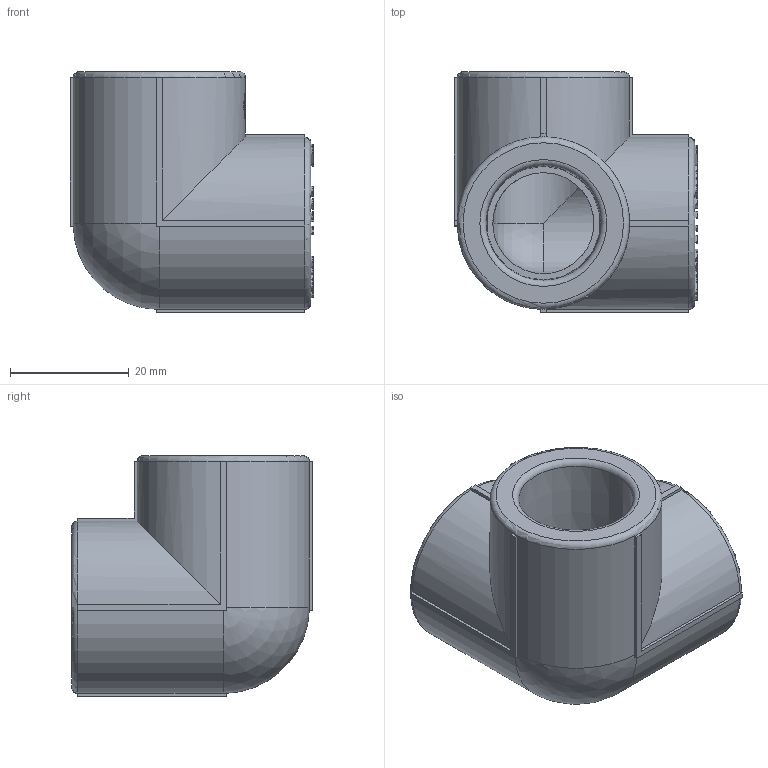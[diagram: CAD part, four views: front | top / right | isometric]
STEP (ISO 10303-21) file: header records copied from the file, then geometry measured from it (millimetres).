
FILE_DESCRIPTION(('STEP AP203'), '1');
FILE_NAME('ÂÐ.752248.001 - VTp.738.0.020', '', ('UNSPECIFIED'), ('UNSPECIFIED'), 'C3D Converter', 'C3D Toolkit', '');
FILE_SCHEMA(('CONFIG_CONTROL_DESIGN'));
Length unit declared in the file: millimetre
Products named in the file (1): ВР.752248.001
Bounding box: 41 x 40.5 x 40.5 mm (x, y, z)
Volume: 23252.8 mm3; surface area: 10323.4 mm2
Topology: 1 solids, 1 shells, 1056 faces, 2961 edges, 1963 vertices
Faces by surface type: extrusion 611, plane 394, cylinder 40, torus 6, cone 3, sphere 2
Full cylindrical faces by diameter (mm): 6 x1, 17 x3
Entity records: 38549 total; most frequent: CARTESIAN_POINT 14613, ORIENTED_EDGE 5894, DIRECTION 2979, EDGE_CURVE 2947, VECTOR 1981, VERTEX_POINT 1963, B_SPLINE_CURVE_WITH_KNOTS 1834, LINE 1370
